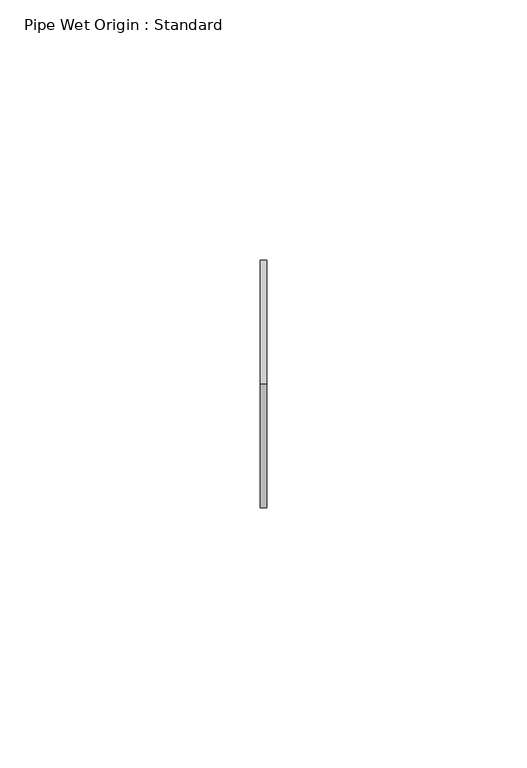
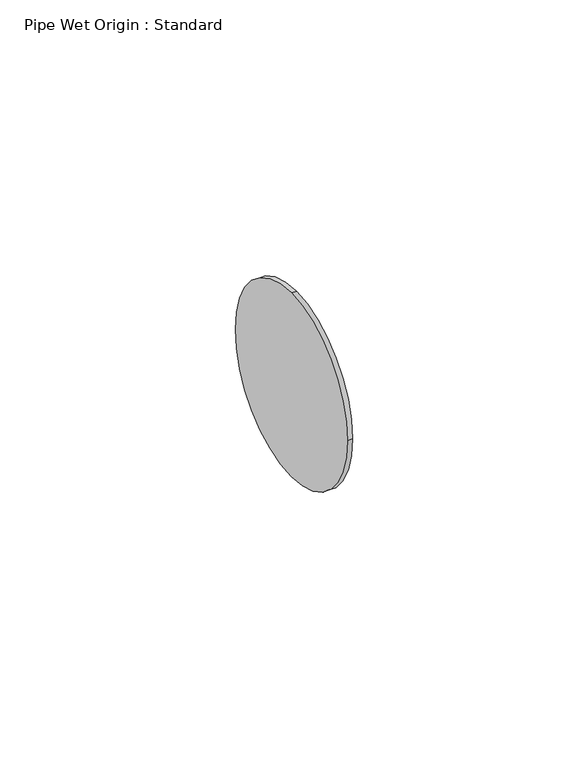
"""IFC4 building model written with IfcOpenShell, lengths in millimetres: proxy geometry, Pipe Wet Origin : Standard."""

import ifcopenshell
import ifcopenshell.guid

model = None  # the IFC model being written
_history = None  # IfcOwnerHistory: only IFC2X3 demands one
_inside = {}  # id of a spatial element -> (the spatial element, [elements in it])
_under = {}  # id of a project, library or spatial element -> (it, [spatial elements below it])
_declared = {}  # id of a project -> (the project, [libraries it declares])
_typed = {}  # id of a type object -> (the type object, [elements of that type])
_made_of = {}  # id of a material, layer set ... -> (it, [elements and type objects made of it])


def new_model(schema):
    """Start an empty IFC model of exactly this schema.

    Asked for "IFC4X3", IfcOpenShell would pick the latest addendum, in which some entities
    have other attributes; the version numbers below select the first issue.
    IFC2X3 requires an IfcOwnerHistory on every rooted entity: one is made here for all.
    """
    global model, _history
    if schema == "IFC4X3":
        model = ifcopenshell.file(schema_version=(4, 3, 0, 0))
    else:
        model = ifcopenshell.file(schema=schema)
    _inside.clear()
    _under.clear()
    _declared.clear()
    _typed.clear()
    _made_of.clear()
    _history = None
    if model.schema == "IFC2X3":
        org = make("IfcOrganization", Name="unknown")
        user = make(
            "IfcPersonAndOrganization",
            ThePerson=make("IfcPerson", FamilyName="unknown"),
            TheOrganization=org,
        )
        app = make(
            "IfcApplication",
            ApplicationDeveloper=org,
            Version="unknown",
            ApplicationFullName="unknown",
            ApplicationIdentifier="unknown",
        )
        _history = make(
            "IfcOwnerHistory",
            OwningUser=user,
            OwningApplication=app,
            ChangeAction="ADDED",
            CreationDate=0,
        )
    return model


def make(cls, **values):
    """One entity of the class cls with the attributes given. An attribute that is None is left unset."""
    return model.create_entity(
        cls, **{name: value for name, value in values.items() if value is not None}
    )


def rooted(cls, **values):
    """An entity with a GlobalId (a new one), such as an element, a storey or a relation."""
    return make(cls, GlobalId=ifcopenshell.guid.new(), OwnerHistory=_history, **values)


def si_unit(unit_type, name, prefix=None):
    """IfcSIUnit, for example si_unit("LENGTHUNIT", "METRE", prefix="MILLI")."""
    return make("IfcSIUnit", UnitType=unit_type, Prefix=prefix, Name=name)


def assignment(units):
    """IfcUnitAssignment: the units of a project."""
    return None if units is None else make("IfcUnitAssignment", Units=units)


def point(xyz):
    """IfcCartesianPoint."""
    return None if xyz is None else make("IfcCartesianPoint", Coordinates=xyz)


def direction(xyz):
    """IfcDirection."""
    return None if xyz is None else make("IfcDirection", DirectionRatios=xyz)


def frame(location, z_axis=None, x_axis=None):
    """IfcAxis2Placement3D, a coordinate frame: its origin and axes. An axis left out is left unset."""
    return make(
        "IfcAxis2Placement3D",
        Location=point(location),
        Axis=direction(z_axis),
        RefDirection=direction(x_axis),
    )


def frame_2d(location, x_axis=None):
    """IfcAxis2Placement2D, a coordinate frame in the plane: its origin and x axis."""
    return make(
        "IfcAxis2Placement2D", Location=point(location), RefDirection=direction(x_axis)
    )


def origin():
    """The frame at (0, 0, 0) with its axes left unset."""
    return frame((0.0, 0.0, 0.0))


def origin_2d():
    """The frame at (0, 0) in the plane with its x axis left unset."""
    return frame_2d((0.0, 0.0))


def place(relative_to, where):
    """IfcLocalPlacement: puts the frame where relative to a parent placement (None: the world)."""
    return make(
        "IfcLocalPlacement", PlacementRelTo=relative_to, RelativePlacement=where
    )


def context(
    kind, dimensions, precision=None, world=None, true_north=None, identifier=None
):
    """IfcGeometricRepresentationContext, for example the 3D "Model" context."""
    return make(
        "IfcGeometricRepresentationContext",
        ContextIdentifier=identifier,
        ContextType=kind,
        CoordinateSpaceDimension=dimensions,
        Precision=precision,
        WorldCoordinateSystem=world,
        TrueNorth=true_north,
    )


def project(units=None, contexts=None):
    """IfcProject with its units and contexts."""
    return rooted(
        "IfcProject",
        Name="project",
        RepresentationContexts=contexts,
        UnitsInContext=assignment(units),
    )


def spatial(cls, under=None, at=None, **own):
    """A site, building, storey or space (cls), placed at a placement, below another one or the project."""
    s = rooted(cls, ObjectPlacement=at, **own)
    if under is not None:
        _under.setdefault(under.id(), (under, []))[1].append(s)
    return s


def circle_curve(where, radius):
    """IfcCircle in the frame where."""
    return make("IfcCircle", Position=where, Radius=radius)


def trimmed(basis, trim1, trim2, sense, master):
    """IfcTrimmedCurve: the piece of a basis curve between two trims."""
    return make(
        "IfcTrimmedCurve",
        BasisCurve=basis,
        Trim1=trim1,
        Trim2=trim2,
        SenseAgreement=sense,
        MasterRepresentation=master,
    )


def segment(curve, same_sense, transition):
    """IfcCompositeCurveSegment."""
    return make(
        "IfcCompositeCurveSegment",
        Transition=transition,
        SameSense=same_sense,
        ParentCurve=curve,
    )


def composite_curve(segments, self_intersect=None):
    """IfcCompositeCurve: segments joined end to end."""
    return make("IfcCompositeCurve", Segments=segments, SelfIntersect=self_intersect)


def outline(outer, holes=None, kind="AREA"):
    """IfcArbitraryClosedProfileDef: a profile drawn as a closed curve; with holes, ...WithVoids."""
    if holes is None:
        return make("IfcArbitraryClosedProfileDef", ProfileType=kind, OuterCurve=outer)
    return make(
        "IfcArbitraryProfileDefWithVoids",
        ProfileType=kind,
        OuterCurve=outer,
        InnerCurves=holes,
    )


def extrude(swept, where, along, depth):
    """IfcExtrudedAreaSolid: the profile swept, set in the frame where, extruded along a direction by depth."""
    return make(
        "IfcExtrudedAreaSolid",
        SweptArea=swept,
        Position=where,
        ExtrudedDirection=direction(along),
        Depth=depth,
    )


def shape(context_of_items, identifier, shape_type, items):
    """IfcShapeRepresentation: the items that make up one representation, for example the "Body"."""
    return make(
        "IfcShapeRepresentation",
        ContextOfItems=context_of_items,
        RepresentationIdentifier=identifier,
        RepresentationType=shape_type,
        Items=items,
    )


def source(mapping_origin, context_of_items, identifier, shape_type, items):
    """IfcRepresentationMap: a shape defined once, which mapped items show again and again."""
    return make(
        "IfcRepresentationMap",
        MappingOrigin=mapping_origin,
        MappedRepresentation=shape(context_of_items, identifier, shape_type, items),
    )


def transform(
    local_origin,
    x_axis=None,
    y_axis=None,
    z_axis=None,
    scale=None,
    scale2=None,
    scale3=None,
    uniform=True,
):
    """IfcCartesianTransformationOperator3D, or its non-uniform kind. x_axis, y_axis, z_axis: its Axis1, 2, 3."""
    if uniform:
        return make(
            "IfcCartesianTransformationOperator3D",
            Axis1=direction(x_axis),
            Axis2=direction(y_axis),
            LocalOrigin=point(local_origin),
            Scale=scale,
            Axis3=direction(z_axis),
        )
    return make(
        "IfcCartesianTransformationOperator3DnonUniform",
        Axis1=direction(x_axis),
        Axis2=direction(y_axis),
        LocalOrigin=point(local_origin),
        Scale=scale,
        Axis3=direction(z_axis),
        Scale2=scale2,
        Scale3=scale3,
    )


def mapped(mapping_source, mapping_target):
    """IfcMappedItem: shows the shape of a source again, moved by a transform."""
    return make(
        "IfcMappedItem", MappingSource=mapping_source, MappingTarget=mapping_target
    )


def made_of(thing, what):
    """Note that an element or type object is made of a material, layer set ...; save() writes the relation."""
    if what is not None:
        _made_of.setdefault(what.id(), (what, []))[1].append(thing)
    return thing


def element(
    cls,
    number,
    at=None,
    inside=None,
    cuts=None,
    type_object=None,
    material=None,
    context=None,
    identifier="Body",
    shape_type=None,
    held_by="IfcProductDefinitionShape",
    body=None,
    shapes=None,
    **own,
):
    """One element of the class cls, such as IfcWall. Its Tag is "e" and its number.

    at: its placement. inside: the storey or other place that contains it. cuts: it is an
    opening in that element (IfcRelVoidsElement). A single representation is given by context,
    identifier, shape_type and body (its items); several are given by shapes. held_by: the class
    of the entity that holds the representations. save() writes the other relations.
    """
    e = rooted(cls, Tag="e%d" % number, ObjectPlacement=at, **own)
    if body is not None:
        shapes = [shape(context, identifier, shape_type, body)]
    if shapes is not None:
        e.Representation = make(held_by, Representations=shapes)
    if inside is not None:
        _inside.setdefault(inside.id(), (inside, []))[1].append(e)
    if cuts is not None:
        rooted(
            "IfcRelVoidsElement", RelatingBuildingElement=cuts, RelatedOpeningElement=e
        )
    if type_object is not None:
        _typed.setdefault(type_object.id(), (type_object, []))[1].append(e)
    return made_of(e, material)


def aggregate(whole, parts):
    """IfcRelAggregates: a whole, such as a stair, and the parts it consists of."""
    return rooted("IfcRelAggregates", RelatingObject=whole, RelatedObjects=parts)


def save(model, path):
    """Write the relations noted so far, then the file.

    IfcRelAggregates (storeys below a building ...), IfcRelContainedInSpatialStructure (elements
    in a storey), IfcRelDefinesByType, IfcRelAssociatesMaterial and IfcRelDeclares: one each for
    every whole, place, type object, material and project.
    """
    for whole, parts in _under.values():
        aggregate(whole, parts)
    for where, things in _inside.values():
        rooted(
            "IfcRelContainedInSpatialStructure",
            RelatedElements=things,
            RelatingStructure=where,
        )
    for kind, things in _typed.values():
        rooted("IfcRelDefinesByType", RelatedObjects=things, RelatingType=kind)
    for what, things in _made_of.values():
        rooted("IfcRelAssociatesMaterial", RelatedObjects=things, RelatingMaterial=what)
    for by, libraries in _declared.values():
        rooted("IfcRelDeclares", RelatingContext=by, RelatedDefinitions=libraries)
    model.write(path)


def pipe_wet_origin_standard_146eebac(model_context):
    return source(origin(), model_context, "Body", "SweptSolid", [
        extrude(outline(composite_curve([segment(trimmed(circle_curve(origin_2d(), 23.8125), [point((0.0, 23.8125))], [point((23.8125, 0.0))], False, "CARTESIAN"), True, "CONTINUOUS"), segment(trimmed(circle_curve(origin_2d(), 23.8125), [point((23.8125, 0.0))], [point((0.0, -23.8125))], False, "CARTESIAN"), True, "CONTINUOUS"), segment(trimmed(circle_curve(origin_2d(), 23.8125), [point((0.0, -23.8125))], [point((-23.8125, 0.0))], False, "CARTESIAN"), True, "CONTINUOUS"), segment(trimmed(circle_curve(origin_2d(), 23.8125), [point((-23.8125, 0.0))], [point((0.0, 23.8125))], False, "CARTESIAN"), True, "CONTINUOUS")], self_intersect=False)), frame((0.0, 0.0, 0.0), z_axis=(1.0, 0.0, 0.0), x_axis=(0.0, 1.0, 0.0)), (0.0, 0.0, 1.0), 1.27),
        extrude(outline(composite_curve([segment(trimmed(circle_curve(origin_2d(), 23.8125), [point((0.0, 23.8125))], [point((23.8125, 0.0))], False, "CARTESIAN"), True, "CONTINUOUS"), segment(trimmed(circle_curve(origin_2d(), 23.8125), [point((23.8125, 0.0))], [point((0.0, -23.8125))], False, "CARTESIAN"), True, "CONTINUOUS"), segment(trimmed(circle_curve(origin_2d(), 23.8125), [point((0.0, -23.8125))], [point((-23.8125, 0.0))], False, "CARTESIAN"), True, "CONTINUOUS"), segment(trimmed(circle_curve(origin_2d(), 23.8125), [point((-23.8125, 0.0))], [point((0.0, 23.8125))], False, "CARTESIAN"), True, "CONTINUOUS")], self_intersect=False)), frame((0.0, 0.0, 0.0), z_axis=(1.0, 0.0, 0.0), x_axis=(0.0, 1.0, 0.0)), (0.0, 0.0, 1.0), 1.27),
    ])


if __name__ == "__main__":
    model = new_model("IFC4")
    model_context = context("Model", 3, world=origin())
    ifc_project = project(units=[si_unit("LENGTHUNIT", "METRE", prefix="MILLI")], contexts=[model_context])
    site = spatial("IfcSite", under=ifc_project)
    building = spatial("IfcBuilding", under=site)
    placement = place(None, origin())
    pipe_wet_origin_standard_shape = pipe_wet_origin_standard_146eebac(model_context)
    element("IfcBuildingElementProxy", 1, Name="Pipe Wet Origin : Standard", ObjectType="Pipe Wet Origin : Standard", at=placement, inside=building, context=model_context, shape_type="MappedRepresentation", body=[
        mapped(pipe_wet_origin_standard_shape, transform((0.0, 0.0, 0.0), x_axis=(1.0, 0.0, 0.0), y_axis=(0.0, 1.0, 0.0), z_axis=(0.0, 0.0, 1.0))),
    ])
    save(model, "model.ifc")
